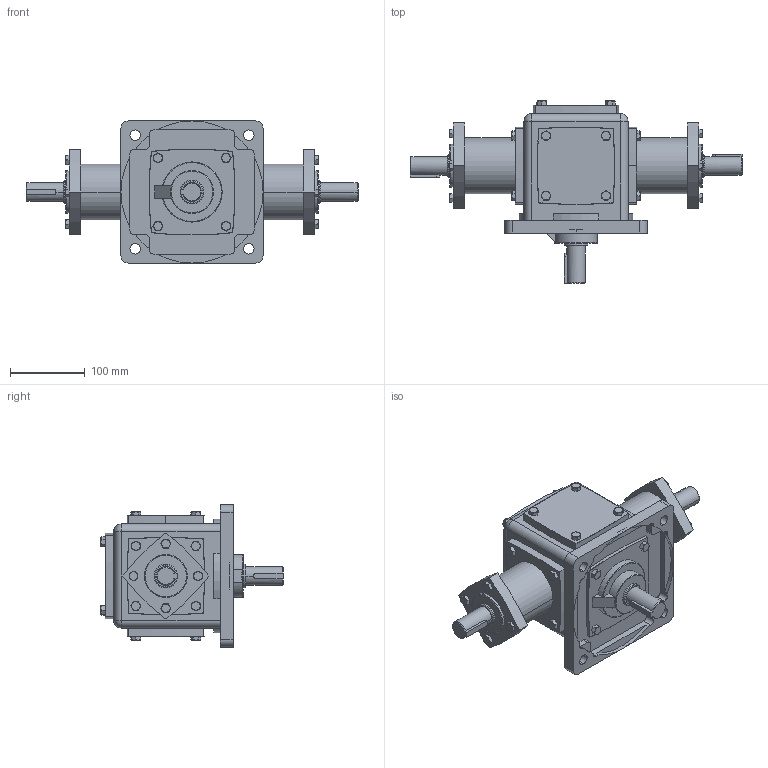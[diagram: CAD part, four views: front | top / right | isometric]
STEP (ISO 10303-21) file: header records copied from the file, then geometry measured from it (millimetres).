
FILE_DESCRIPTION (( 'STEP AP203' ), '1' );
FILE_NAME ('T6-1：1-1-1-D-B8.step', '2017-11-01T08:32:27', ( 'Windows 用户' ), ( '' ), 'SwSTEP 2.0', 'SolidWorks 2016', '' );
FILE_SCHEMA (( 'CONFIG_CONTROL_DESIGN' ));
Length unit declared in the file: millimetre
Products named in the file (1): T6-1：1-1-1-D-B8
Bounding box: 444 x 244 x 190 mm (x, y, z)
Volume: 4698492.8 mm3; surface area: 301845.9 mm2
Topology: 4 solids, 4 shells, 676 faces, 1586 edges, 964 vertices
Faces by surface type: plane 297, cone 227, cylinder 110, torus 38, sphere 4
Entity records: 22109 total; most frequent: CARTESIAN_POINT 7067, ORIENTED_EDGE 3164, DIRECTION 3010, EDGE_CURVE 1582, AXIS2_PLACEMENT_3D 1175, VERTEX_POINT 964, EDGE_LOOP 734, ADVANCED_FACE 676
